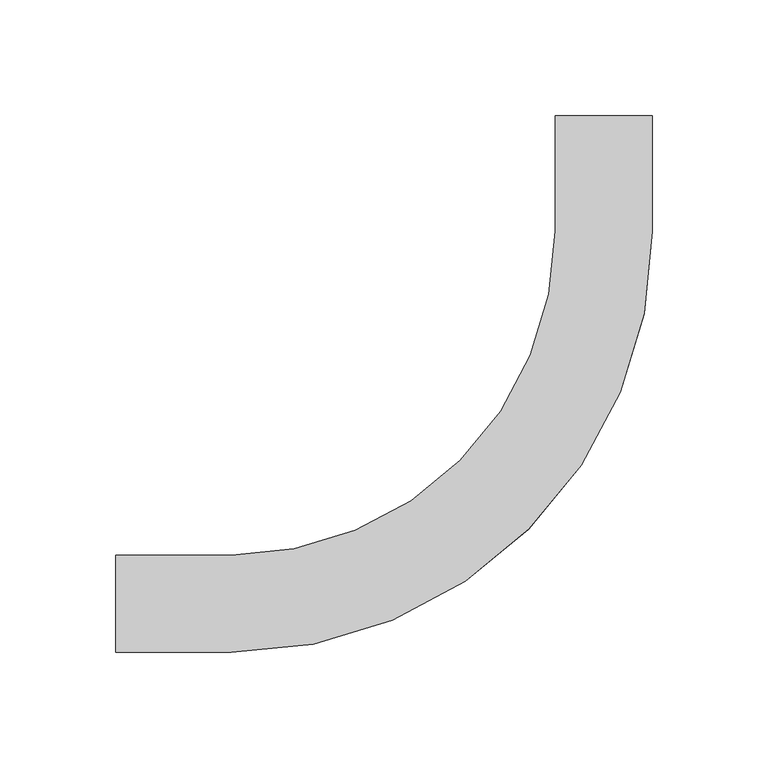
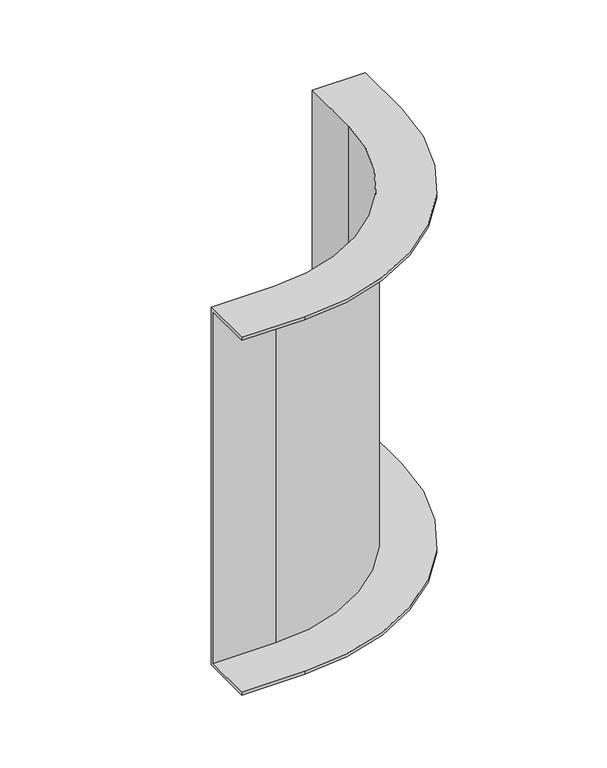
"""IFC4 building model written with IfcOpenShell, lengths in millimetres: cable carrier fitting geometry, BAKS_Vertical bend adjustable : LLL/LLJ_H42."""

from ifc_helpers import new_model, si_unit, frame, origin, place, context, project, spatial, polyline, circle_curve, source, transform, mapped, element, save
from ifc_brep_helpers import plane_surface, cylinder_surface, revolved_surface, advanced_brep


def cable_carrier_fitting_6d558282(model_context):
    return source(origin(), model_context, "Body", "AdvancedBrep", [
        advanced_brep(
        [(-211.0, -21.0, 150.0), (-211.0, 21.0, 150.0), (-211.0, 21.0, -150.0), (-211.0, -21.0, -150.0), (-211.0, -21.0, -147.46), (-211.0, 18.46, -147.46), (-211.0, 18.46, 147.46), (-211.0, -21.0, 147.46), (21.0, 211.0, 150.0), (21.0, 211.0, 147.46), (-18.46, 211.0, 147.46), (-18.46, 211.0, -147.46), (21.0, 211.0, -147.46), (21.0, 211.0, -150.0), (-21.0, 211.0, -150.0), (-21.0, 211.0, 150.0), (-161.0, -21.0, 150.0), (21.0, 161.0, 150.0), (-21.0, 161.0, 150.0), (-161.0, 21.0, 150.0), (-161.0, 21.0, -150.0), (-21.0, 161.0, -150.0), (21.0, 161.0, -150.0), (-161.0, -21.0, -150.0), (-161.0, -21.0, -147.46), (21.0, 161.0, -147.46), (-18.46, 161.0, -147.46), (-161.0, 18.46, -147.46), (-161.0, 18.46, 147.46), (-18.46, 161.0, 147.46), (21.0, 161.0, 147.46), (-161.0, -21.0, 147.46)],
        [
            (0, 1),
            (1, 2),
            (2, 3),
            (3, 4),
            (4, 5),
            (5, 6),
            (6, 7),
            (7, 0),
            (8, 9),
            (9, 10),
            (10, 11),
            (11, 12),
            (12, 13),
            (13, 14),
            (14, 15),
            (15, 8),
            (0, 16),
            (16, 17, circle_curve(frame((-161.0, 161.0, 150.0), z_axis=(0.0, 0.0, 1.0), x_axis=(0.0, -1.0, 0.0)), 182.0)),
            (17, 8),
            (15, 18),
            (18, 19, circle_curve(frame((-161.0, 161.0, 150.0), z_axis=(0.0, 0.0, -1.0), x_axis=(0.0, -1.0, 0.0)), 140.0)),
            (19, 1),
            (19, 20),
            (20, 2),
            (20, 21, circle_curve(frame((-161.0, 161.0, -150.0), z_axis=(0.0, 0.0, 1.0), x_axis=(0.0, -1.0, 0.0)), 140.0)),
            (21, 14),
            (13, 22),
            (22, 23, circle_curve(frame((-161.0, 161.0, -150.0), z_axis=(0.0, 0.0, -1.0), x_axis=(0.0, -1.0, 0.0)), 182.0)),
            (23, 3),
            (23, 24),
            (24, 4),
            (24, 25, circle_curve(frame((-161.0, 161.0, -147.46), z_axis=(0.0, 0.0, 1.0), x_axis=(0.0, -1.0, 0.0)), 182.0)),
            (25, 12),
            (11, 26),
            (26, 27, circle_curve(frame((-161.0, 161.0, -147.46), z_axis=(0.0, 0.0, -1.0), x_axis=(0.0, -1.0, 0.0)), 142.54)),
            (27, 5),
            (27, 28),
            (28, 6),
            (28, 29, circle_curve(frame((-161.0, 161.0, 147.46), z_axis=(0.0, 0.0, 1.0), x_axis=(0.0, -1.0, 0.0)), 142.54)),
            (29, 10),
            (9, 30),
            (30, 31, circle_curve(frame((-161.0, 161.0, 147.46), z_axis=(0.0, 0.0, -1.0), x_axis=(0.0, -1.0, 0.0)), 182.0)),
            (31, 7),
            (31, 16),
            (18, 21),
            (22, 25),
            (26, 29),
            (30, 17),
        ],
        [
            plane_surface(frame((-211.0, 0.0, 0.0), z_axis=(-1.0, 0.0, 0.0), x_axis=(0.0, 0.0, 1.0))),
            plane_surface(frame((0.0, 211.0, 0.0), z_axis=(0.0, 1.0, 0.0), x_axis=(0.0, 0.0, 1.0))),
            plane_surface(frame((-211.0, -21.0, 150.0), z_axis=(0.0, 0.0, 1.0), x_axis=(1.0, 0.0, 0.0))),
            plane_surface(frame((-211.0, 21.0, 150.0), z_axis=(0.0, 1.0, 0.0), x_axis=(1.0, 0.0, 0.0))),
            plane_surface(frame((-211.0, 21.0, -150.0), z_axis=(0.0, 0.0, -1.0), x_axis=(1.0, 0.0, 0.0))),
            plane_surface(frame((-211.0, -21.0, -150.0), z_axis=(0.0, -1.0, 0.0), x_axis=(1.0, 0.0, 0.0))),
            plane_surface(frame((-211.0, -21.0, -147.46), z_axis=(0.0, 0.0, 1.0), x_axis=(1.0, 0.0, 0.0))),
            plane_surface(frame((-211.0, 18.46, -147.46), z_axis=(0.0, -1.0, 0.0), x_axis=(1.0, 0.0, 0.0))),
            plane_surface(frame((-211.0, 18.46, 147.46), z_axis=(0.0, 0.0, -1.0), x_axis=(1.0, 0.0, 0.0))),
            plane_surface(frame((-211.0, -21.0, 147.46), z_axis=(0.0, -1.0, 0.0), x_axis=(1.0, 0.0, 0.0))),
            revolved_surface(polyline([(-161.0, 21.0, 150.0), (-161.0, 21.0, -150.0)]), (-161.0, 161.0, 0.0), (0.0, 0.0, 1.0)),
            cylinder_surface(frame((-161.0, 161.0, 0.0), z_axis=(0.0, 0.0, 1.0), x_axis=(0.0, -1.0, 0.0)), 182.0),
            cylinder_surface(frame((-161.0, 161.0, 0.0), z_axis=(0.0, 0.0, 1.0), x_axis=(0.0, -1.0, 0.0)), 142.54),
            plane_surface(frame((-21.0, 161.0, 150.0), z_axis=(-1.0, 0.0, 0.0), x_axis=(0.0, 1.0, 0.0))),
            plane_surface(frame((21.0, 161.0, -150.0), z_axis=(1.0, 0.0, 0.0), x_axis=(0.0, 1.0, 0.0))),
            plane_surface(frame((-18.46, 161.0, -147.46), z_axis=(1.0, 0.0, 0.0), x_axis=(0.0, 1.0, 0.0))),
            plane_surface(frame((21.0, 161.0, 147.46), z_axis=(1.0, 0.0, 0.0), x_axis=(0.0, 1.0, 0.0))),
        ],
        [
            (0, [[1, 2, 3, 4, 5, 6, 7, 8]]),
            (1, [[9, 10, 11, 12, 13, 14, 15, 16]]),
            (2, [[-1, 17, 18, 19, -16, 20, 21, 22]]),
            (3, [[-2, -22, 23, 24]]),
            (4, [[-3, -24, 25, 26, -14, 27, 28, 29]]),
            (5, [[-4, -29, 30, 31]]),
            (6, [[-5, -31, 32, 33, -12, 34, 35, 36]]),
            (7, [[-6, -36, 37, 38]]),
            (8, [[-7, -38, 39, 40, -10, 41, 42, 43]]),
            (9, [[-8, -43, 44, -17]]),
            (10, [[-25, -23, -21, 45]]),
            (11, [[-32, -30, -28, 46]]),
            (12, [[-39, -37, -35, 47]]),
            (11, [[-18, -44, -42, 48]]),
            (13, [[-45, -20, -15, -26]]),
            (14, [[-46, -27, -13, -33]]),
            (15, [[-47, -34, -11, -40]]),
            (16, [[-48, -41, -9, -19]]),
        ],
    ),
    ])


if __name__ == "__main__":
    model = new_model("IFC4")
    model_context = context("Model", 3, world=origin())
    ifc_project = project(units=[si_unit("LENGTHUNIT", "METRE", prefix="MILLI")], contexts=[model_context])
    site = spatial("IfcSite", under=ifc_project)
    building = spatial("IfcBuilding", under=site)
    placement = place(None, origin())
    cable_carrier_fitting_shape = cable_carrier_fitting_6d558282(model_context)
    element("IfcCableCarrierFitting", 1, ObjectType="BAKS_Vertical bend adjustable : LLL/LLJ_H42", at=placement, inside=building, context=model_context, shape_type="MappedRepresentation", body=[
        mapped(cable_carrier_fitting_shape, transform((0.0, 0.0, 0.0), x_axis=(1.0, 0.0, 0.0), y_axis=(0.0, 1.0, 0.0), z_axis=(0.0, 0.0, 1.0))),
    ])
    save(model, "model.ifc")
